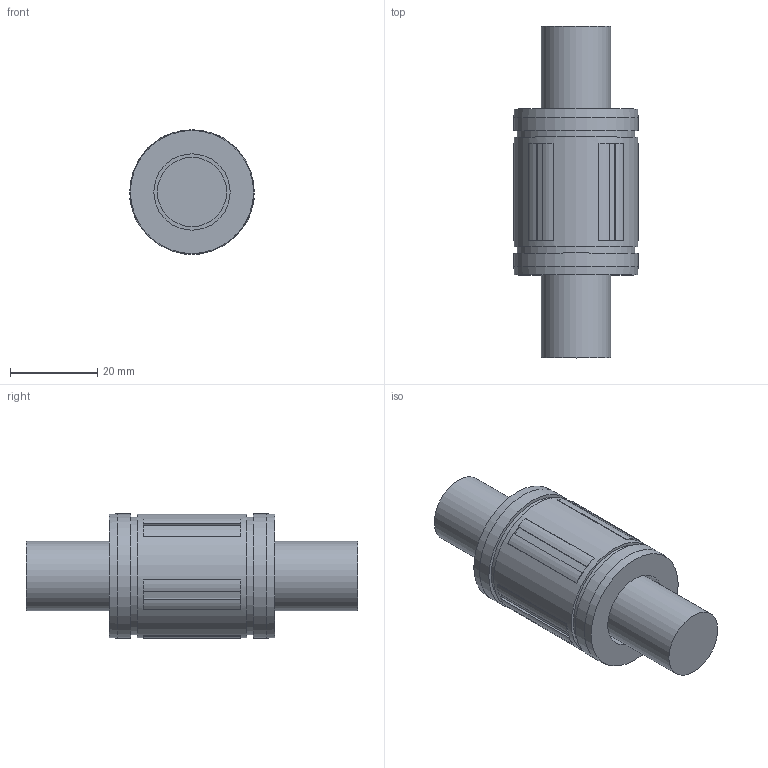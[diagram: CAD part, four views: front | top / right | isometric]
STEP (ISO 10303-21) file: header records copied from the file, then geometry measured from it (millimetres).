
FILE_DESCRIPTION((''),'2;1');
FILE_NAME('D:\STEP\SUPER\LMBS\LMBS10.stp','2013-02-14T08:04:29',('user2'),(''),'Autodesk Inventor 2012','Autodesk Inventor 2012','');
FILE_SCHEMA(('AUTOMOTIVE_DESIGN { 1 0 10303 214 1 1 1 1 }'));
Length unit declared in the file: millimetre
Products named in the file (1): LMBS10
Bounding box: 28.57 x 76.2 x 28.57 mm (x, y, z)
Volume: 31025.7 mm3; surface area: 8010.1 mm2
Topology: 1 solids, 1 shells, 86 faces, 191 edges, 120 vertices
Faces by surface type: plane 65, cylinder 19, cone 2
Full cylindrical faces by diameter (mm): 15.875 x2, 17.5 x2, 26.9 x2, 28.275 x1, 28.575 x2
Entity records: 2364 total; most frequent: DIRECTION 424, CARTESIAN_POINT 387, ORIENTED_EDGE 360, EDGE_CURVE 180, AXIS2_PLACEMENT_3D 157, VERTEX_POINT 120, EDGE_LOOP 110, VECTOR 110
